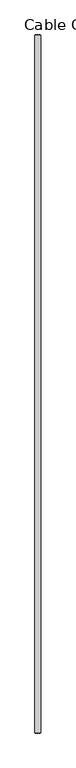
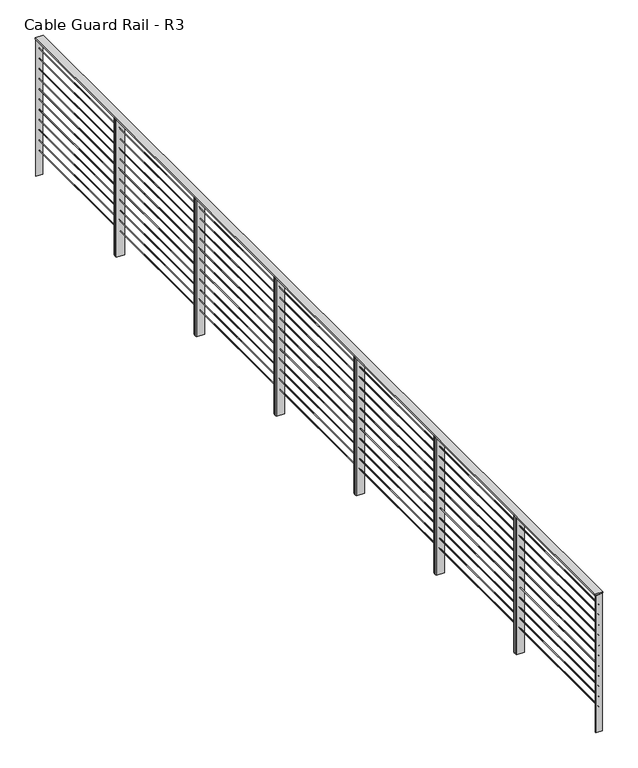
"""IFC4 building model written with IfcOpenShell, lengths in millimetres: railing geometry, Cable Guard Rail - R3."""

from ifc_helpers import new_model, si_unit, point, frame, frame_2d, origin, place, context, project, spatial, polyline, circle_curve, trimmed, segment, composite_curve, outline, extrude, source, transform, mapped, element, save


def cable_guard_rail_r3_fa116302(model_context):
    return source(origin(), model_context, "Body", "SweptSolid", [
        extrude(outline(polyline([(40071.6390585, 191941.7577192), (39995.4390585, 191941.7577192), (39995.4390585, 201063.823934), (40071.6390585, 201063.823934), (40071.6390585, 191941.7577192)])), frame((0.0, 0.0, 295916.35), z_axis=(0.0, 0.0, 1.0), x_axis=(1.0, 0.0, 0.0)), (0.0, 0.0, 1.0), 12.7),
        extrude(outline(composite_curve([segment(trimmed(circle_curve(frame_2d((295814.75, 40033.5390585)), 3.175), [point((295814.75, 40030.3640585))], [point((295814.75, 40036.7140585))], False, "CARTESIAN"), True, "CONTINUOUS"), segment(trimmed(circle_curve(frame_2d((295814.75, 40033.5390585)), 3.175), [point((295814.75, 40036.7140585))], [point((295814.75, 40030.3640585))], False, "CARTESIAN"), True, "CONTINUOUS")], self_intersect=False)), frame((0.0, 191941.7577192, 0.0), z_axis=(0.0, 1.0, 0.0), x_axis=(0.0, 0.0, 1.0)), (0.0, 0.0, 1.0), 9122.0662147),
        extrude(outline(composite_curve([segment(trimmed(circle_curve(frame_2d((295713.15, 40033.5390585)), 3.175), [point((295713.15, 40030.3640585))], [point((295713.15, 40036.7140585))], False, "CARTESIAN"), True, "CONTINUOUS"), segment(trimmed(circle_curve(frame_2d((295713.15, 40033.5390585)), 3.175), [point((295713.15, 40036.7140585))], [point((295713.15, 40030.3640585))], False, "CARTESIAN"), True, "CONTINUOUS")], self_intersect=False)), frame((0.0, 191941.7577192, 0.0), z_axis=(0.0, 1.0, 0.0), x_axis=(0.0, 0.0, 1.0)), (0.0, 0.0, 1.0), 9122.0662147),
        extrude(outline(composite_curve([segment(trimmed(circle_curve(frame_2d((295611.55, 40033.5390585)), 3.175), [point((295611.55, 40030.3640585))], [point((295611.55, 40036.7140585))], False, "CARTESIAN"), True, "CONTINUOUS"), segment(trimmed(circle_curve(frame_2d((295611.55, 40033.5390585)), 3.175), [point((295611.55, 40036.7140585))], [point((295611.55, 40030.3640585))], False, "CARTESIAN"), True, "CONTINUOUS")], self_intersect=False)), frame((0.0, 191941.7577192, 0.0), z_axis=(0.0, 1.0, 0.0), x_axis=(0.0, 0.0, 1.0)), (0.0, 0.0, 1.0), 9122.0662147),
        extrude(outline(composite_curve([segment(trimmed(circle_curve(frame_2d((295509.95, 40033.5390585)), 3.175), [point((295509.95, 40030.3640585))], [point((295509.95, 40036.7140585))], False, "CARTESIAN"), True, "CONTINUOUS"), segment(trimmed(circle_curve(frame_2d((295509.95, 40033.5390585)), 3.175), [point((295509.95, 40036.7140585))], [point((295509.95, 40030.3640585))], False, "CARTESIAN"), True, "CONTINUOUS")], self_intersect=False)), frame((0.0, 191941.7577192, 0.0), z_axis=(0.0, 1.0, 0.0), x_axis=(0.0, 0.0, 1.0)), (0.0, 0.0, 1.0), 9122.0662147),
        extrude(outline(composite_curve([segment(trimmed(circle_curve(frame_2d((295408.35, 40033.5390585)), 3.175), [point((295408.35, 40030.3640585))], [point((295408.35, 40036.7140585))], False, "CARTESIAN"), True, "CONTINUOUS"), segment(trimmed(circle_curve(frame_2d((295408.35, 40033.5390585)), 3.175), [point((295408.35, 40036.7140585))], [point((295408.35, 40030.3640585))], False, "CARTESIAN"), True, "CONTINUOUS")], self_intersect=False)), frame((0.0, 191941.7577192, 0.0), z_axis=(0.0, 1.0, 0.0), x_axis=(0.0, 0.0, 1.0)), (0.0, 0.0, 1.0), 9122.0662147),
        extrude(outline(composite_curve([segment(trimmed(circle_curve(frame_2d((295306.75, 40033.5390585)), 3.175), [point((295306.75, 40030.3640585))], [point((295306.75, 40036.7140585))], False, "CARTESIAN"), True, "CONTINUOUS"), segment(trimmed(circle_curve(frame_2d((295306.75, 40033.5390585)), 3.175), [point((295306.75, 40036.7140585))], [point((295306.75, 40030.3640585))], False, "CARTESIAN"), True, "CONTINUOUS")], self_intersect=False)), frame((0.0, 191941.7577192, 0.0), z_axis=(0.0, 1.0, 0.0), x_axis=(0.0, 0.0, 1.0)), (0.0, 0.0, 1.0), 9122.0662147),
        extrude(outline(composite_curve([segment(trimmed(circle_curve(frame_2d((295205.15, 40033.5390585)), 3.175), [point((295205.15, 40030.3640585))], [point((295205.15, 40036.7140585))], False, "CARTESIAN"), True, "CONTINUOUS"), segment(trimmed(circle_curve(frame_2d((295205.15, 40033.5390585)), 3.175), [point((295205.15, 40036.7140585))], [point((295205.15, 40030.3640585))], False, "CARTESIAN"), True, "CONTINUOUS")], self_intersect=False)), frame((0.0, 191941.7577192, 0.0), z_axis=(0.0, 1.0, 0.0), x_axis=(0.0, 0.0, 1.0)), (0.0, 0.0, 1.0), 9122.0662147),
        extrude(outline(composite_curve([segment(trimmed(circle_curve(frame_2d((295103.55, 40033.5390585)), 3.175), [point((295103.55, 40030.3640585))], [point((295103.55, 40036.7140585))], False, "CARTESIAN"), True, "CONTINUOUS"), segment(trimmed(circle_curve(frame_2d((295103.55, 40033.5390585)), 3.175), [point((295103.55, 40036.7140585))], [point((295103.55, 40030.3640585))], False, "CARTESIAN"), True, "CONTINUOUS")], self_intersect=False)), frame((0.0, 191941.7577192, 0.0), z_axis=(0.0, 1.0, 0.0), x_axis=(0.0, 0.0, 1.0)), (0.0, 0.0, 1.0), 9122.0662147),
        extrude(outline(composite_curve([segment(trimmed(circle_curve(frame_2d((295001.95, 40033.5390585)), 3.175), [point((295001.95, 40030.3640585))], [point((295001.95, 40036.7140585))], False, "CARTESIAN"), True, "CONTINUOUS"), segment(trimmed(circle_curve(frame_2d((295001.95, 40033.5390585)), 3.175), [point((295001.95, 40036.7140585))], [point((295001.95, 40030.3640585))], False, "CARTESIAN"), True, "CONTINUOUS")], self_intersect=False)), frame((0.0, 191941.7577192, 0.0), z_axis=(0.0, 1.0, 0.0), x_axis=(0.0, 0.0, 1.0)), (0.0, 0.0, 1.0), 9122.0662147),
        extrude(outline(composite_curve([segment(trimmed(circle_curve(frame_2d((294900.35, 40033.5390585)), 3.175), [point((294900.35, 40030.3640585))], [point((294900.35, 40036.7140585))], False, "CARTESIAN"), True, "CONTINUOUS"), segment(trimmed(circle_curve(frame_2d((294900.35, 40033.5390585)), 3.175), [point((294900.35, 40036.7140585))], [point((294900.35, 40030.3640585))], False, "CARTESIAN"), True, "CONTINUOUS")], self_intersect=False)), frame((0.0, 191941.7577192, 0.0), z_axis=(0.0, 1.0, 0.0), x_axis=(0.0, 0.0, 1.0)), (0.0, 0.0, 1.0), 9122.0662147),
        extrude(outline(composite_curve([segment(trimmed(circle_curve(frame_2d((294798.75, 40033.5390585)), 3.175), [point((294798.75, 40030.3640585))], [point((294798.75, 40036.7140585))], False, "CARTESIAN"), True, "CONTINUOUS"), segment(trimmed(circle_curve(frame_2d((294798.75, 40033.5390585)), 3.175), [point((294798.75, 40036.7140585))], [point((294798.75, 40030.3640585))], False, "CARTESIAN"), True, "CONTINUOUS")], self_intersect=False)), frame((0.0, 191941.7577192, 0.0), z_axis=(0.0, 1.0, 0.0), x_axis=(0.0, 0.0, 1.0)), (0.0, 0.0, 1.0), 9122.0662147),
        extrude(outline(polyline([(39995.4390585, 199738.4466176), (39995.4390585, 199747.9716176), (40071.6390585, 199747.9716176), (40071.6390585, 199738.4466176), (39995.4390585, 199738.4466176)])), frame((0.0, 0.0, 294551.1), z_axis=(0.0, 0.0, 1.0), x_axis=(1.0, 0.0, 0.0)), (0.0, 0.0, 1.0), 1365.25),
        extrude(outline(polyline([(39995.4390585, 199767.0216176), (39995.4390585, 199776.4983822), (40071.6390585, 199776.4983822), (40071.6390585, 199767.0216176), (39995.4390585, 199767.0216176)])), frame((0.0, 0.0, 294551.1), z_axis=(0.0, 0.0, 1.0), x_axis=(1.0, 0.0, 0.0)), (0.0, 0.0, 1.0), 1365.25),
        extrude(outline(polyline([(39995.4390585, 198435.2943012), (39995.4390585, 198444.8193012), (40071.6390585, 198444.8193012), (40071.6390585, 198435.2943012), (39995.4390585, 198435.2943012)])), frame((0.0, 0.0, 294551.1), z_axis=(0.0, 0.0, 1.0), x_axis=(1.0, 0.0, 0.0)), (0.0, 0.0, 1.0), 1365.25),
        extrude(outline(polyline([(39995.4390585, 198463.8693012), (39995.4390585, 198473.3460658), (40071.6390585, 198473.3460658), (40071.6390585, 198463.8693012), (39995.4390585, 198463.8693012)])), frame((0.0, 0.0, 294551.1), z_axis=(0.0, 0.0, 1.0), x_axis=(1.0, 0.0, 0.0)), (0.0, 0.0, 1.0), 1365.25),
        extrude(outline(polyline([(39995.4390585, 197132.1419848), (39995.4390585, 197141.6669848), (40071.6390585, 197141.6669848), (40071.6390585, 197132.1419848), (39995.4390585, 197132.1419848)])), frame((0.0, 0.0, 294551.1), z_axis=(0.0, 0.0, 1.0), x_axis=(1.0, 0.0, 0.0)), (0.0, 0.0, 1.0), 1365.25),
        extrude(outline(polyline([(39995.4390585, 197160.7169848), (39995.4390585, 197170.1937494), (40071.6390585, 197170.1937494), (40071.6390585, 197160.7169848), (39995.4390585, 197160.7169848)])), frame((0.0, 0.0, 294551.1), z_axis=(0.0, 0.0, 1.0), x_axis=(1.0, 0.0, 0.0)), (0.0, 0.0, 1.0), 1365.25),
        extrude(outline(polyline([(39995.4390585, 195828.9896684), (39995.4390585, 195838.5146684), (40071.6390585, 195838.5146684), (40071.6390585, 195828.9896684), (39995.4390585, 195828.9896684)])), frame((0.0, 0.0, 294551.1), z_axis=(0.0, 0.0, 1.0), x_axis=(1.0, 0.0, 0.0)), (0.0, 0.0, 1.0), 1365.25),
        extrude(outline(polyline([(39995.4390585, 195857.5646684), (39995.4390585, 195867.041433), (40071.6390585, 195867.041433), (40071.6390585, 195857.5646684), (39995.4390585, 195857.5646684)])), frame((0.0, 0.0, 294551.1), z_axis=(0.0, 0.0, 1.0), x_axis=(1.0, 0.0, 0.0)), (0.0, 0.0, 1.0), 1365.25),
        extrude(outline(polyline([(39995.4390585, 194525.837352), (39995.4390585, 194535.362352), (40071.6390585, 194535.362352), (40071.6390585, 194525.837352), (39995.4390585, 194525.837352)])), frame((0.0, 0.0, 294551.1), z_axis=(0.0, 0.0, 1.0), x_axis=(1.0, 0.0, 0.0)), (0.0, 0.0, 1.0), 1365.25),
        extrude(outline(polyline([(39995.4390585, 194554.412352), (39995.4390585, 194563.8891166), (40071.6390585, 194563.8891166), (40071.6390585, 194554.412352), (39995.4390585, 194554.412352)])), frame((0.0, 0.0, 294551.1), z_axis=(0.0, 0.0, 1.0), x_axis=(1.0, 0.0, 0.0)), (0.0, 0.0, 1.0), 1365.25),
        extrude(outline(polyline([(39995.4390585, 193222.6850356), (39995.4390585, 193232.2100356), (40071.6390585, 193232.2100356), (40071.6390585, 193222.6850356), (39995.4390585, 193222.6850356)])), frame((0.0, 0.0, 294551.1), z_axis=(0.0, 0.0, 1.0), x_axis=(1.0, 0.0, 0.0)), (0.0, 0.0, 1.0), 1365.25),
        extrude(outline(polyline([(39995.4390585, 193251.2600356), (39995.4390585, 193260.7368002), (40071.6390585, 193260.7368002), (40071.6390585, 193251.2600356), (39995.4390585, 193251.2600356)])), frame((0.0, 0.0, 294551.1), z_axis=(0.0, 0.0, 1.0), x_axis=(1.0, 0.0, 0.0)), (0.0, 0.0, 1.0), 1365.25),
        extrude(outline(polyline([(40001.7890585, 201060.648934), (40001.7890585, 201066.998934), (40065.2890585, 201066.998934), (40065.2890585, 201060.648934), (40001.7890585, 201060.648934)])), frame((0.0, 0.0, 294551.1), z_axis=(0.0, 0.0, 1.0), x_axis=(1.0, 0.0, 0.0)), (0.0, 0.0, 1.0), 1365.25),
        extrude(outline(polyline([(40001.7890585, 191938.5827192), (40001.7890585, 191944.9327192), (40065.2890585, 191944.9327192), (40065.2890585, 191938.5827192), (40001.7890585, 191938.5827192)])), frame((0.0, 0.0, 294551.1), z_axis=(0.0, 0.0, 1.0), x_axis=(1.0, 0.0, 0.0)), (0.0, 0.0, 1.0), 1365.25),
    ])


if __name__ == "__main__":
    model = new_model("IFC4")
    model_context = context("Model", 3, world=origin())
    ifc_project = project(units=[si_unit("LENGTHUNIT", "METRE", prefix="MILLI")], contexts=[model_context])
    site = spatial("IfcSite", under=ifc_project)
    building = spatial("IfcBuilding", under=site)
    placement = place(None, origin())
    cable_guard_rail_r3_shape = cable_guard_rail_r3_fa116302(model_context)
    element("IfcRailing", 1, ObjectType="Cable Guard Rail - R3", at=placement, inside=building, context=model_context, shape_type="MappedRepresentation", body=[
        mapped(cable_guard_rail_r3_shape, transform((0.0, 0.0, 0.0), x_axis=(1.0, 0.0, 0.0), y_axis=(0.0, 1.0, 0.0), z_axis=(0.0, 0.0, 1.0))),
    ])
    save(model, "model.ifc")
